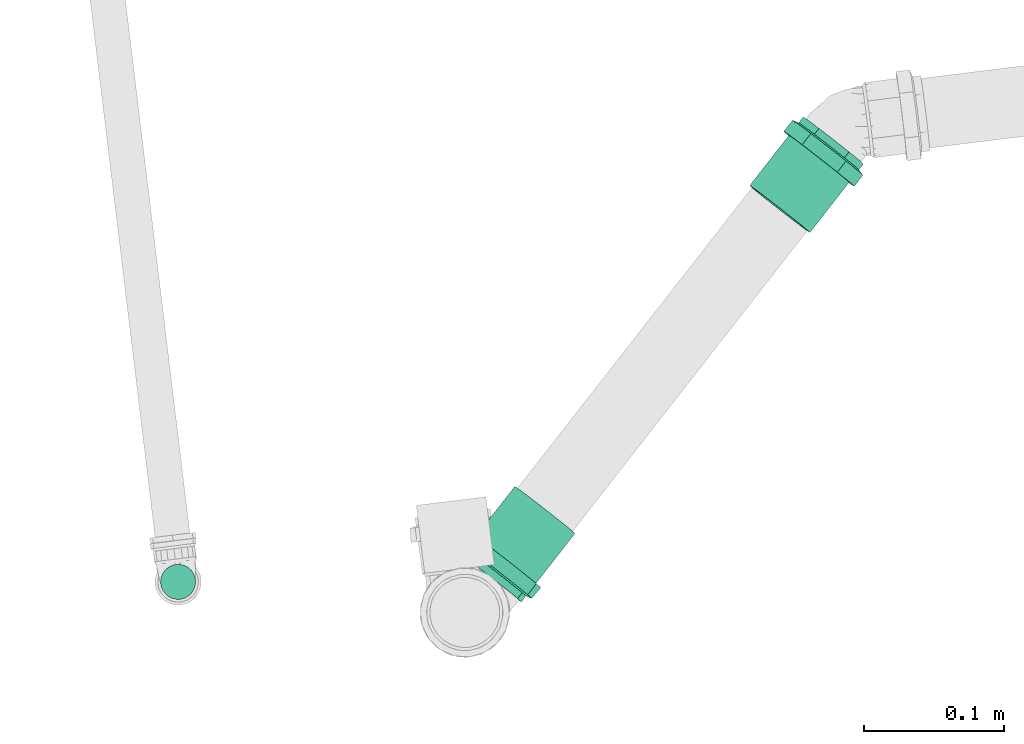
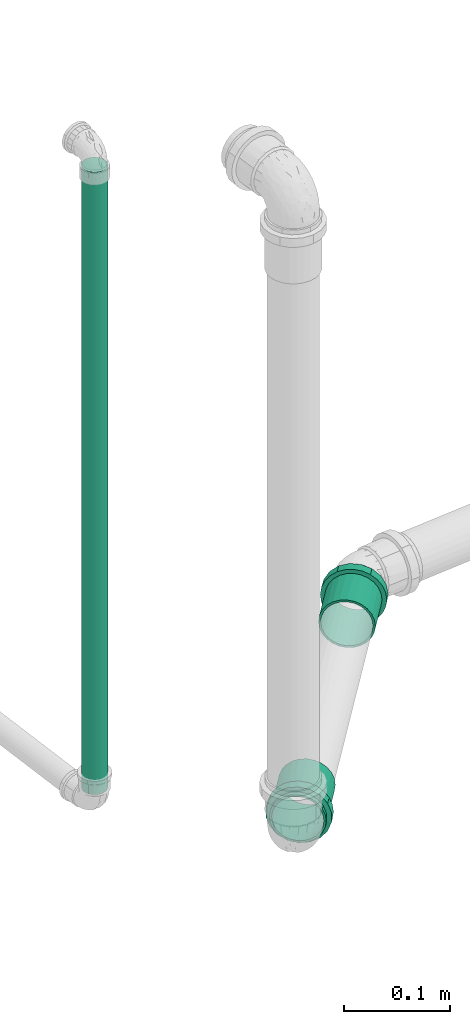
# One storey, part 33 of 97: 2 flow fittings, 1 flow segment.
"""IFC2X3 building model written with IfcOpenShell, lengths in centimetres."""

from ifc_helpers import new_model, entity, si_unit, converted_unit, derived_unit, direction, frame, frame_2d, origin, place, context, subcontext, project, spatial, circle, extrude, faceted_brep, source, transform, mapped, material, type_object, type_shapes, element, save


model = new_model("IFC2X3")

# Units and contexts
model_context = context("Model", 3, precision=0.001, world=origin(), true_north=direction((6.12303176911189e-17, 1.0)))
body_context = subcontext(model_context, "Body", "Model", "MODEL_VIEW")
ifc_project = project(units=[si_unit("LENGTHUNIT", "METRE", prefix="CENTI"), si_unit("AREAUNIT", "SQUARE_METRE"), si_unit("VOLUMEUNIT", "CUBIC_METRE"), converted_unit("PLANEANGLEUNIT", "DEGREE", entity("IfcRatioMeasure", 0.0174532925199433), si_unit("PLANEANGLEUNIT", "RADIAN"), dimensions=[0, 0, 0, 0, 0, 0, 0]), si_unit("MASSUNIT", "GRAM", prefix="KILO"), derived_unit("MASSDENSITYUNIT", [(si_unit("MASSUNIT", "GRAM", prefix="KILO"), 1), (si_unit("LENGTHUNIT", "METRE"), -3)]), derived_unit("MOMENTOFINERTIAUNIT", [(si_unit("LENGTHUNIT", "METRE"), 4)]), si_unit("TIMEUNIT", "SECOND"), si_unit("FREQUENCYUNIT", "HERTZ"), si_unit("THERMODYNAMICTEMPERATUREUNIT", "DEGREE_CELSIUS"), derived_unit("THERMALTRANSMITTANCEUNIT", [(si_unit("MASSUNIT", "GRAM", prefix="KILO"), 1), (si_unit("THERMODYNAMICTEMPERATUREUNIT", "KELVIN"), -1), (si_unit("TIMEUNIT", "SECOND"), -3)]), derived_unit("VOLUMETRICFLOWRATEUNIT", [(si_unit("LENGTHUNIT", "METRE"), 3), (si_unit("TIMEUNIT", "SECOND"), -1)]), si_unit("ELECTRICCURRENTUNIT", "AMPERE"), si_unit("ELECTRICVOLTAGEUNIT", "VOLT"), si_unit("POWERUNIT", "WATT"), si_unit("FORCEUNIT", "NEWTON", prefix="KILO"), si_unit("ILLUMINANCEUNIT", "LUX"), si_unit("LUMINOUSFLUXUNIT", "LUMEN"), si_unit("LUMINOUSINTENSITYUNIT", "CANDELA"), derived_unit("USERDEFINED", [(si_unit("MASSUNIT", "GRAM", prefix="KILO"), -1), (si_unit("LENGTHUNIT", "METRE"), -2), (si_unit("TIMEUNIT", "SECOND"), 3), (si_unit("LUMINOUSFLUXUNIT", "LUMEN"), 1)]), derived_unit("LINEARVELOCITYUNIT", [(si_unit("LENGTHUNIT", "METRE"), 1), (si_unit("TIMEUNIT", "SECOND"), -1)]), si_unit("PRESSUREUNIT", "PASCAL"), derived_unit("USERDEFINED", [(si_unit("LENGTHUNIT", "METRE"), -2), (si_unit("MASSUNIT", "GRAM", prefix="KILO"), 1), (si_unit("TIMEUNIT", "SECOND"), -2)]), derived_unit("LINEARFORCEUNIT", [(si_unit("MASSUNIT", "GRAM", prefix="KILO"), 1), (si_unit("LENGTHUNIT", "METRE"), 1), (si_unit("TIMEUNIT", "SECOND"), -2), (si_unit("LENGTHUNIT", "METRE"), -1)]), derived_unit("PLANARFORCEUNIT", [(si_unit("MASSUNIT", "GRAM", prefix="KILO"), 1), (si_unit("LENGTHUNIT", "METRE"), 1), (si_unit("TIMEUNIT", "SECOND"), -2), (si_unit("LENGTHUNIT", "METRE"), -2)])], contexts=[model_context])

# Site, building, storey
site_placement = place(None, origin())
site = spatial("IfcSite", under=ifc_project, at=site_placement, Name="Default", CompositionType="ELEMENT")
building_placement = place(site_placement, origin())
building = spatial("IfcBuilding", under=site, at=building_placement, Name="HIDROSSANITÁRIO", CompositionType="ELEMENT")
storey_placement = place(building_placement, frame((0.0, 0.0, -260.0)))
storey = spatial("IfcBuildingStorey", under=building, at=storey_placement, Name="TÉRREO-HID", CompositionType="ELEMENT", Elevation=-260.0)

# Flow segment
pipe_segment_type = type_object("IfcPipeSegmentType", Name="Tipos de tubos:Tubo Marrom - Água Fria - Soldável", PredefinedType="NOTDEFINED")
flow_segment_placement = place(storey_placement, origin())
element("IfcFlowSegment", 1, at=flow_segment_placement, inside=storey, type_object=pipe_segment_type, Name="Tipos de tubos:Tubo Marrom - Água Fria - Soldável", ObjectType="Tipos de tubos:Tubo Marrom - Água Fria - Soldável", context=body_context, shape_type="SweptSolid", body=[
    extrude(circle(Radius=1.25, at=frame_2d((1.08286712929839e-13, 0.0), x_axis=(1.0, 0.0))), frame((-685.726733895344, 2982.70227061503, -13.46), z_axis=(0.0, 0.0, 1.0), x_axis=(-1.0, 0.0, 0.0)), (0.0, 0.0, 1.0), 71.83),
])

# Flow fittings
ifc_material = material(Name="PVC Branco")
pipe_fitting_type = type_object("IfcPipeFittingType", Name="Luva Simples para Conexão - Serie Normal - Esgoto - MEP - Tigre:Standard", PredefinedType="NOTDEFINED", material=ifc_material)
shared_shape = source(origin(), body_context, "Body", "Brep", [
    faceted_brep([(1.65999999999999, 1.59, -2.75396078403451), (1.65999999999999, 2.24859956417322, -2.24859956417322), (1.65999999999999, 1.35999999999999, -2.35558909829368), (1.65999999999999, 0.703987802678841, -2.62731824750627), (1.65999999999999, 0.82304456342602, -3.07164412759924), (1.65999999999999, 1.9233304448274, -1.92333044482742), (1.65999999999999, 2.75396078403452, -1.59), (1.65999999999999, 2.35558909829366, -1.36000000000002), (1.65999999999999, 2.62731824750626, -0.703987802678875), (1.65999999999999, 3.07164412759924, -0.823044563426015), (1.65999999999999, 2.72, 0.0), (1.65999999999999, 3.18, 0.0), (1.65999999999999, 2.62731824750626, 0.703987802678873), (1.65999999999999, 3.07164412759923, 0.823044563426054), (1.65999999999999, 2.35558909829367, 1.36000000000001), (1.65999999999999, 2.7539607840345, 1.59000000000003), (1.65999999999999, 1.9233304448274, 1.92333044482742), (1.65999999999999, 2.24859956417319, 2.24859956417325), (1.65999999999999, 1.35999999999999, 2.35558909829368), (1.65999999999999, 1.58999999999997, 2.75396078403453), (1.65999999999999, 0.703987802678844, 2.62731824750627), (1.65999999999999, 0.823044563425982, 3.07164412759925), (1.65999999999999, 0.0, 2.72), (1.65999999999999, 0.0, 3.18), (1.65999999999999, -0.703987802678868, 2.62731824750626), (1.65999999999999, -0.823044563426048, 3.07164412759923), (1.65999999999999, -1.36000000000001, 2.35558909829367), (1.65999999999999, -1.59000000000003, 2.7539607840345), (1.65999999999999, -1.92333044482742, 1.9233304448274), (1.65999999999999, -2.24859956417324, 2.2485995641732), (1.65999999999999, -2.35558909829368, 1.35999999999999), (1.65999999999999, -2.75396078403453, 1.58999999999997), (1.65999999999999, -3.07164412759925, 0.823044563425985), (1.65999999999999, -2.62731824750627, 0.703987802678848), (1.65999999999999, -3.18, 0.0), (1.65999999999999, -2.72, 0.0), (1.65999999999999, -3.07164412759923, -0.823044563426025), (1.65999999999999, -2.62731824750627, -0.703987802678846), (1.65999999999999, -2.75396078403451, -1.59000000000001), (1.65999999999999, -2.35558909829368, -1.35999999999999), (1.65999999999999, -2.24859956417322, -2.24859956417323), (1.65999999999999, -1.92333044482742, -1.9233304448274), (1.65999999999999, -1.58999999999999, -2.75396078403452), (1.65999999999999, -1.36000000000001, -2.35558909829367), (1.65999999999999, -0.823044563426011, -3.07164412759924), (1.65999999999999, -0.70398780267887, -2.62731824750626), (1.65999999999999, 0.0, -3.18), (1.65999999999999, 0.0, -2.72), (0.650000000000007, -1.07081089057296, 2.94292196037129), (0.650000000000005, -2.43590738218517, 2.04420038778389), (0.650000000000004, -2.7120498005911, 1.56595386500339), (0.650000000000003, -2.98819221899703, 1.08770734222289), (0.650000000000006, -1.58976972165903, 2.75409372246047), (0.650000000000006, -2.0128385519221, 2.39914705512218), (0.650000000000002, -3.08409610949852, 0.54385367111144), (0.650000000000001, -3.18, 0.0), (0.650000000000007, -0.551852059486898, 3.13175019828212), (0.650000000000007, 0.552637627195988, 3.13161167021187), (0.650000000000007, 0.000392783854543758, 3.13168093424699), (0.650000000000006, 2.01344030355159, 2.39864206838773), (0.650000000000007, 1.07154907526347, 2.94265325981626), (0.650000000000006, 1.59046052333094, 2.75369484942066), (0.650000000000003, 2.98846497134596, 1.08695773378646), (0.650000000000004, 2.7124425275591, 1.56527351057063), (0.650000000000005, 2.43642008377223, 2.0435892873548), (0.650000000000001, 3.18, 0.0), (0.649999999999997, 2.43642008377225, -2.04358928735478), (0.649999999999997, 2.71244252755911, -1.5652735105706), (0.649999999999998, 2.98846497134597, -1.08695773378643), (0.649999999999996, 1.59046052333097, -2.75369484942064), (0.649999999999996, 2.01344030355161, -2.39864206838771), (0.649999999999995, 1.07154907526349, -2.94265325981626), (0.649999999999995, 0.552637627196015, -3.13161167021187), (0.649999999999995, -0.551852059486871, -3.13175019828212), (0.649999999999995, 0.000392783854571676, -3.13168093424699), (0.649999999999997, -2.01283855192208, -2.3991470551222), (0.649999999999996, -1.58976972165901, -2.75409372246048), (0.649999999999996, -1.07081089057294, -2.9429219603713), (0.649999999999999, -2.98819221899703, -1.08770734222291), (0.649999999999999, -2.71204980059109, -1.56595386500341), (0.649999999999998, -2.43590738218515, -2.04420038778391), (0.65, -3.08409610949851, -0.543853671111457), (0.64999999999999, -3.06961738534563, -0.625959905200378), (6.20000000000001, 1.36, -2.35558909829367), (6.20000000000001, 1.92333044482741, -1.92333044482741), (6.20000000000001, 1.24999999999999, -2.1650635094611), (6.20000000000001, 0.647047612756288, -2.41481456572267), (6.20000000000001, 0.70398780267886, -2.62731824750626), (6.20000000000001, 1.76776695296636, -1.76776695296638), (6.20000000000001, 2.35558909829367, -1.36), (6.20000000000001, 2.16506350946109, -1.25000000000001), (6.20000000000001, 2.41481456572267, -0.647047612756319), (6.20000000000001, 2.62731824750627, -0.703987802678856), (6.20000000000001, 2.5, 0.0), (6.20000000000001, 2.72, 0.0), (6.20000000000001, 2.41481456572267, 0.647047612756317), (6.20000000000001, 2.62731824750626, 0.703987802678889), (6.20000000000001, 2.16506350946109, 1.25000000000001), (6.20000000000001, 2.35558909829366, 1.36000000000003), (6.20000000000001, 1.76776695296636, 1.76776695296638), (6.20000000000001, 1.92333044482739, 1.92333044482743), (6.20000000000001, 1.24999999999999, 2.1650635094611), (6.20000000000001, 1.35999999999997, 2.35558909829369), (6.20000000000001, 0.64704761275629, 2.41481456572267), (6.20000000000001, 0.703987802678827, 2.62731824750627), (6.20000000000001, 0.0, 2.5), (6.20000000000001, 0.0, 2.72), (6.20000000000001, -0.647047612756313, 2.41481456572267), (6.20000000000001, -0.703987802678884, 2.62731824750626), (6.20000000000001, -1.25000000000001, 2.16506350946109), (6.20000000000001, -1.36000000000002, 2.35558909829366), (6.20000000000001, -1.76776695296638, 1.76776695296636), (6.20000000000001, -1.92333044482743, 1.92333044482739), (6.20000000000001, -2.1650635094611, 1.24999999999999), (6.20000000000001, -2.35558909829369, 1.35999999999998), (6.20000000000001, -2.62731824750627, 0.703987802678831), (6.20000000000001, -2.41481456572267, 0.647047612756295), (6.20000000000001, -2.72, 0.0), (6.20000000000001, -2.5, 0.0), (6.20000000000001, -2.62731824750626, -0.703987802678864), (6.20000000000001, -2.41481456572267, -0.647047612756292), (6.20000000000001, -2.35558909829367, -1.36000000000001), (6.20000000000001, -2.1650635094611, -1.24999999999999), (6.20000000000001, -1.9233304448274, -1.92333044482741), (6.20000000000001, -1.76776695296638, -1.76776695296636), (6.20000000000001, -1.36, -2.35558909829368), (6.20000000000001, -1.25000000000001, -2.16506350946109), (6.20000000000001, -0.703987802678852, -2.62731824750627), (6.20000000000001, -0.647047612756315, -2.41481456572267), (6.20000000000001, 0.0, -2.72), (6.20000000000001, 0.0, -2.5), (0.0, 1.24999999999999, -2.1650635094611), (0.0, 1.92333044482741, -1.92333044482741), (0.0, 1.36, -2.35558909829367), (0.0, 0.647047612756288, -2.41481456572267), (0.0, 1.76776695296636, -1.76776695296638), (0.0, 2.35558909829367, -1.36), (0.0, 2.16506350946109, -1.25000000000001), (0.0, 2.41481456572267, -0.647047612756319), (0.0, 2.62731824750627, -0.703987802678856), (0.0, 2.5, 0.0), (0.0, 2.72, 0.0), (0.0, 2.41481456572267, 0.647047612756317), (0.0, 2.62731824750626, 0.703987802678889), (0.0, 2.16506350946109, 1.25000000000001), (0.0, 2.35558909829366, 1.36000000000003), (0.0, 1.76776695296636, 1.76776695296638), (0.0, 1.92333044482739, 1.92333044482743), (0.0, 1.24999999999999, 2.1650635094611), (0.0, 1.35999999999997, 2.35558909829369), (0.0, 0.64704761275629, 2.41481456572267), (0.0, 0.703987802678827, 2.62731824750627), (0.0, 0.0, 2.5), (0.0, 0.0, 2.72), (0.0, -0.647047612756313, 2.41481456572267), (0.0, -0.703987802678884, 2.62731824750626), (0.0, -1.25000000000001, 2.16506350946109), (0.0, -1.36000000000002, 2.35558909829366), (0.0, -1.76776695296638, 1.76776695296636), (0.0, -1.92333044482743, 1.92333044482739), (0.0, -2.1650635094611, 1.24999999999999), (0.0, -2.35558909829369, 1.35999999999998), (0.0, -2.62731824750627, 0.703987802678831), (0.0, -2.41481456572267, 0.647047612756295), (0.0, -2.72, 0.0), (0.0, -2.5, 0.0), (0.0, -2.62731824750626, -0.703987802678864), (0.0, -2.41481456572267, -0.647047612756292), (0.0, -2.35558909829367, -1.36000000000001), (0.0, -2.1650635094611, -1.24999999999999), (0.0, -1.9233304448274, -1.92333044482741), (0.0, -1.76776695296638, -1.76776695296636), (0.0, -1.36, -2.35558909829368), (0.0, -1.25000000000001, -2.16506350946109), (0.0, -0.703987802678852, -2.62731824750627), (0.0, -0.647047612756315, -2.41481456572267), (0.0, 0.0, -2.72), (0.0, 0.0, -2.5), (0.0, 0.70398780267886, -2.62731824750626), (0.53, -2.63796899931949, 0.465183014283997), (0.529999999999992, -2.62558467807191, 0.535412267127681), (0.530000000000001, -2.55593799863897, 0.930366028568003), (0.530000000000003, -2.08354342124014, 1.74849844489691), (0.530000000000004, -1.72167322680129, 2.05210062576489), (0.530000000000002, -2.31974070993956, 1.33943223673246), (0.530000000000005, -0.472024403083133, 2.67872972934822), (0.530000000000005, -0.915913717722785, 2.51721626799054), (0.53, -2.72, 0.0), (0.530000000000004, -1.35980303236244, 2.35570280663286), (0.530000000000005, 0.916545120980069, 2.51698643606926), (0.530000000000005, 1.36039390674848, 2.35536163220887), (0.530000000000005, 0.47269633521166, 2.67861123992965), (0.530000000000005, 1.72218793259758, 2.05166868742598), (0.530000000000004, 2.08398195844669, 1.7479757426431), (0.530000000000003, 2.5561712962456, 0.929724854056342), (0.53, 2.72, 0.0), (0.530000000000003, 2.32007662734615, 1.33885029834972), (0.530000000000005, 0.000335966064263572, 2.67867048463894), (0.529999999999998, 2.55617129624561, -0.929724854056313), (0.529999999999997, 2.08398195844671, -1.74797574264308), (0.529999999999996, 1.7221879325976, -2.05166868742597), (0.529999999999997, 2.32007662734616, -1.3388502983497), (0.529999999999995, 0.472696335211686, -2.67861123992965), (0.529999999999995, 0.916545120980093, -2.51698643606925), (0.529999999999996, 1.3603939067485, -2.35536163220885), (0.529999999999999, -2.63796899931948, -0.465183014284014), (0.529999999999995, -0.915913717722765, -2.51721626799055), (0.529999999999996, -1.35980303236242, -2.35570280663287), (0.529999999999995, -0.47202440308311, -2.67872972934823), (0.529999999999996, -1.72167322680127, -2.0521006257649), (0.529999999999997, -2.08354342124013, -1.74849844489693), (0.529999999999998, -2.55593799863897, -0.930366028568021), (0.529999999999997, -2.31974070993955, -1.33943223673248), (0.529999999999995, 0.000335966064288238, -2.67867048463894), (3.9, -2.5, 0.0), (3.9, 2.5, 0.0)], [[[0, 1, 2]], [[0, 2, 3]], [[3, 4, 0]], [[2, 1, 5]], [[6, 5, 1]], [[7, 5, 6]], [[8, 7, 6]], [[8, 6, 9]], [[8, 9, 10]], [[10, 9, 11]], [[12, 10, 11]], [[12, 11, 13]], [[14, 12, 13]], [[14, 13, 15]], [[16, 14, 15]], [[15, 17, 16]], [[17, 18, 16]], [[17, 19, 18]], [[18, 19, 20]], [[21, 20, 19]], [[20, 21, 22]], [[22, 21, 23]], [[22, 23, 24]], [[24, 23, 25]], [[24, 25, 26]], [[27, 26, 25]], [[27, 28, 26]], [[28, 27, 29]], [[30, 28, 29]], [[31, 30, 29]], [[32, 30, 31]], [[33, 30, 32]], [[33, 32, 34]], [[35, 33, 34]], [[36, 35, 34]], [[36, 37, 35]], [[37, 36, 38]], [[39, 37, 38]], [[39, 38, 40]], [[39, 40, 41]], [[40, 42, 41]], [[41, 42, 43]], [[43, 42, 44]], [[44, 45, 43]], [[46, 45, 44]], [[4, 47, 46]], [[46, 47, 45]], [[4, 3, 47]], [[48, 27, 25]], [[31, 29, 49]], [[31, 49, 50, 51]], [[52, 53, 27]], [[32, 51, 54]], [[54, 55, 34]], [[54, 34, 32]], [[25, 56, 48]], [[49, 29, 53]], [[23, 57, 58, 56]], [[59, 19, 17]], [[27, 53, 29]], [[48, 52, 27]], [[31, 51, 32]], [[57, 23, 21]], [[60, 19, 61]], [[15, 62, 63, 64]], [[19, 60, 21]], [[15, 13, 62]], [[17, 64, 59]], [[57, 21, 60]], [[23, 56, 25]], [[15, 64, 17]], [[13, 65, 62]], [[13, 11, 65]], [[59, 61, 19]], [[65, 11, 9]], [[6, 1, 66]], [[6, 66, 67, 68]], [[69, 70, 0]], [[68, 65, 9]], [[71, 69, 0]], [[71, 0, 4]], [[4, 72, 71]], [[66, 1, 70]], [[46, 73, 74, 72]], [[75, 76, 42]], [[0, 70, 1]], [[75, 42, 40]], [[6, 68, 9]], [[73, 46, 44]], [[77, 42, 76]], [[38, 78, 79, 80]], [[42, 77, 44]], [[38, 36, 78]], [[40, 80, 75]], [[73, 44, 77]], [[46, 72, 4]], [[38, 80, 40]], [[36, 81, 82, 78]], [[55, 81, 34]], [[34, 81, 36]], [[83, 84, 85]], [[83, 85, 86]], [[86, 87, 83]], [[85, 84, 88]], [[89, 88, 84]], [[88, 89, 90]], [[90, 89, 91]], [[92, 91, 89]], [[92, 93, 91]], [[93, 92, 94]], [[95, 93, 94]], [[94, 96, 95]], [[95, 96, 97]], [[98, 97, 96]], [[97, 98, 99]], [[99, 98, 100]], [[101, 99, 100]], [[100, 102, 101]], [[101, 102, 103]], [[104, 103, 102]], [[103, 104, 105]], [[105, 104, 106]], [[105, 106, 107]], [[107, 106, 108]], [[107, 108, 109]], [[110, 109, 108]], [[110, 111, 109]], [[111, 110, 112]], [[112, 113, 111]], [[114, 113, 112]], [[113, 114, 115]], [[115, 116, 113]], [[117, 116, 115]], [[117, 118, 116]], [[119, 118, 117]], [[119, 120, 118]], [[120, 119, 121]], [[121, 122, 120]], [[122, 121, 123]], [[122, 123, 124]], [[123, 125, 124]], [[124, 125, 126]], [[126, 125, 127]], [[127, 128, 126]], [[129, 128, 127]], [[87, 130, 129]], [[129, 130, 128]], [[87, 86, 130]], [[131, 132, 133]], [[134, 131, 133]], [[135, 132, 131]], [[132, 135, 136]], [[137, 136, 135]], [[138, 136, 137]], [[136, 138, 139]], [[138, 140, 139]], [[141, 139, 140]], [[141, 140, 142]], [[142, 143, 141]], [[144, 143, 142]], [[143, 144, 145]], [[146, 145, 144]], [[147, 145, 146]], [[147, 146, 148]], [[148, 149, 147]], [[150, 149, 148]], [[149, 150, 151]], [[152, 151, 150]], [[153, 151, 152]], [[154, 153, 152]], [[155, 153, 154]], [[156, 155, 154]], [[155, 156, 157]], [[156, 158, 157]], [[159, 157, 158]], [[158, 160, 159]], [[159, 160, 161]], [[162, 161, 160]], [[160, 163, 162]], [[162, 163, 164]], [[163, 165, 164]], [[164, 165, 166]], [[165, 167, 166]], [[168, 166, 167]], [[167, 169, 168]], [[170, 168, 169]], [[171, 170, 169]], [[171, 172, 170]], [[173, 172, 171]], [[174, 172, 173]], [[173, 175, 174]], [[174, 175, 176]], [[175, 177, 176]], [[177, 134, 178]], [[176, 177, 178]], [[133, 178, 134]], [[162, 179, 180, 181]], [[159, 182, 183]], [[182, 161, 181, 184]], [[185, 155, 186]], [[161, 162, 181]], [[187, 179, 164]], [[183, 188, 157]], [[183, 157, 159]], [[161, 182, 159]], [[189, 190, 149]], [[189, 149, 151]], [[157, 188, 186]], [[157, 186, 155]], [[153, 155, 185]], [[164, 179, 162]], [[151, 191, 189]], [[147, 192, 193]], [[143, 194, 195]], [[194, 145, 193, 196]], [[143, 195, 141]], [[10, 12, 96, 94]], [[149, 192, 147]], [[153, 185, 197, 191]], [[153, 191, 151]], [[145, 147, 193]], [[190, 192, 149]], [[145, 194, 143]], [[139, 195, 198]], [[132, 199, 200]], [[199, 136, 198, 201]], [[202, 178, 203]], [[136, 139, 198]], [[139, 141, 195]], [[92, 8, 10, 94]], [[133, 203, 178]], [[200, 204, 133]], [[136, 199, 132]], [[205, 164, 166]], [[206, 207, 172]], [[133, 204, 203]], [[206, 172, 174]], [[176, 178, 202]], [[200, 133, 132]], [[174, 208, 206]], [[170, 209, 210]], [[166, 211, 205]], [[211, 168, 210, 212]], [[168, 211, 166]], [[172, 209, 170]], [[176, 202, 213, 208]], [[176, 208, 174]], [[168, 170, 210]], [[207, 209, 172]], [[205, 187, 164]], [[116, 118, 214, 165, 163]], [[156, 109, 111, 158]], [[111, 113, 160, 158]], [[113, 116, 163, 160]], [[107, 109, 156, 154]], [[154, 152, 105, 107]], [[103, 105, 152, 150]], [[103, 150, 148, 101]], [[142, 95, 97, 144]], [[97, 99, 146, 144]], [[99, 101, 148, 146]], [[93, 95, 142, 140, 215]], [[215, 140, 138, 91, 93]], [[135, 131, 85, 88]], [[90, 91, 138, 137]], [[90, 137, 135, 88]], [[86, 85, 131, 134]], [[134, 177, 130, 86]], [[128, 130, 177, 175]], [[128, 175, 173, 126]], [[167, 120, 122, 169]], [[122, 124, 171, 169]], [[124, 126, 173, 171]], [[118, 120, 167, 165, 214]], [[211, 78, 82, 81, 55, 187, 205]], [[79, 78, 211, 212, 210, 80]], [[75, 80, 210, 209, 207, 76]], [[207, 206, 208, 73, 77, 76]], [[213, 202, 72, 74, 73, 208]], [[203, 204, 69, 71, 72, 202]], [[198, 195, 65, 68]], [[199, 201, 198, 68, 67, 66]], [[204, 200, 199, 66, 70, 69]], [[195, 194, 62, 65]], [[197, 185, 56, 58, 57, 191]], [[63, 62, 194, 196, 193, 64]], [[57, 60, 61, 190, 189, 191]], [[193, 192, 190, 61, 59, 64]], [[48, 56, 185, 186, 188, 52]], [[187, 55, 54, 51, 181, 180, 179]], [[182, 184, 181, 51, 50, 49]], [[188, 183, 182, 49, 53, 52]], [[30, 33, 115, 114]], [[117, 115, 33, 35]], [[26, 28, 112, 110]], [[114, 112, 28, 30]], [[24, 26, 110, 108]], [[108, 106, 22, 24]], [[18, 20, 104, 102]], [[100, 16, 18, 102]], [[12, 14, 98, 96]], [[100, 98, 14, 16]], [[104, 20, 22, 106]], [[89, 7, 8, 92]], [[83, 87, 3, 2]], [[7, 89, 84, 5]], [[83, 2, 5, 84]], [[87, 129, 47, 3]], [[43, 45, 127, 125]], [[123, 41, 43, 125]], [[37, 39, 121, 119]], [[123, 121, 39, 41]], [[35, 37, 119, 117]], [[127, 45, 47, 129]]]),
])
type_shapes(pipe_fitting_type, [shared_shape])
for number, where, z_axis, x_axis, name in (
    (2, (-663.411603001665, 2982.93836748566, -25.0613581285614), (0.788186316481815, -0.615436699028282, 0.0), (0.615313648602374, 0.788028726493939, -0.0199960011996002), "Luva Simples para Conexão - Serie Normal - Esgoto - MEP - Tigre:Standard"),
    (3, (-639.041569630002, 3014.14893205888, -25.8533171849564), (0.0188338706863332, 0.0106627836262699, 0.999765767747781), (-0.615313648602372, -0.788028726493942, 0.0199960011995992), "Luva Simples para Conexão - Serie Normal - Esgoto - MEP - Tigre:Standard"),
):
    element("IfcFlowFitting", number, at=place(storey_placement, frame(where, z_axis=z_axis, x_axis=x_axis)), inside=storey, type_object=pipe_fitting_type, material=ifc_material, Name=name, ObjectType="Luva Simples para Conexão - Serie Normal - Esgoto - MEP - Tigre:Standard", context=body_context, shape_type="MappedRepresentation", body=[
        mapped(shared_shape, transform((0.0, 0.0, 0.0), scale=1.0)),
    ])

save(model, "model.ifc")
